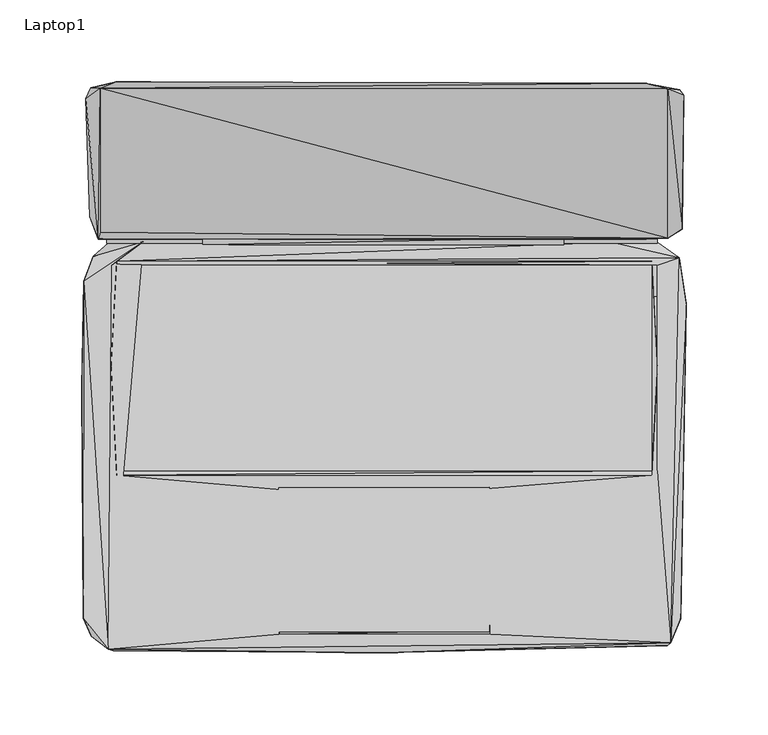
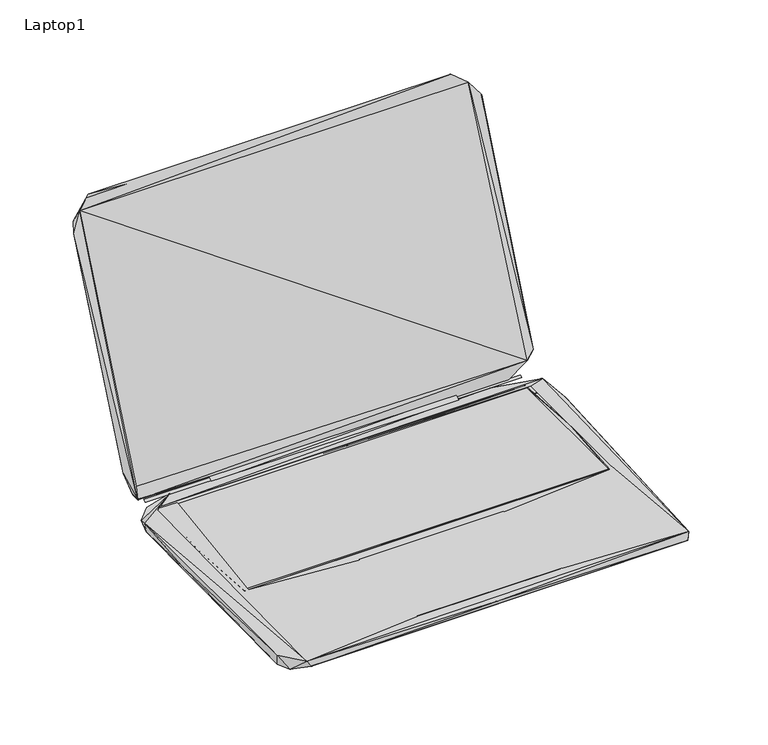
"""IFC4 building model written with IfcOpenShell, lengths in millimetres: furniture geometry, Laptop1 : 0.37 m x 0.35 m 2."""

from ifc_helpers import new_model, si_unit, origin, place, context, project, spatial, triangles, source, transform, mapped, element, save


def laptop1_fbb91723(model_context):
    return source(origin(), model_context, "Body", "Tessellation", [
        triangles([(-163.1627515, -63.4161464, 10.6379669), (163.3643925, -63.4160874, 10.6379669), (-163.1627878, 62.2339284, 10.6379669), (163.3643744, 62.2339875, 10.6379669)], [[1, 2, 3], [2, 4, 3]], closed=False),
        triangles([(-110.8122314, 74.6277804, 10.6596248), (109.6013315, 74.6278258, 10.6596248), (109.7013254, 79.0278252, 13.559625), (-110.8122314, 79.1277828, 13.559625), (-177.749561, 67.5617918, 1.9875597), (-147.0631255, 76.4618027, 11.2875593), (-168.0495535, 76.0617908, 5.7875595), (179.8283403, 64.061851, 1.3875597), (-175.7495559, 83.7617932, 15.6875588), (179.7283464, 88.3618485, 24.887557), (153.6283407, 77.6618475, 9.9875603), (-174.5495564, 78.1617898, 13.8875596), (-173.4495691, 82.3617878, 23.5875592), (-173.4495691, 170.0837317, 230.6309262), (173.2283617, 78.5618471, 23.5875592), (-182.3495709, 163.7837347, 215.930915), (-169.4495589, 75.7617955, 11.0875602), (166.7283405, 75.7618545, 11.0875602), (-169.4495589, 78.1617898, 12.3875592), (166.7283405, 78.1618534, 12.3875592), (138.5419251, 76.3618451, 10.7875592), (166.8283526, 76.2618512, 5.8875596), (-166.3495664, 62.0617914, 11.38756), (-163.1495437, 64.7617856, 11.38756), (-163.1495437, 62.1617898, 10.6875596), (163.4283603, 64.7618492, 11.38756), (166.7283405, 62.1618534, 11.4875596), (180.1283584, 66.7618497, 11.1875598), (163.4283603, 62.1618534, 10.6875596), (181.8283454, 84.2618535, 27.087559), (173.2283435, 169.9837923, 230.7309201), (183.0283449, 165.9837821, 217.9309201), (180.4283219, 169.2837805, 219.6309072), (-179.2495784, 170.3837133, 222.6309239), (-163.4495617, 174.0837237, 240.2309216), (159.4283319, 173.2837907, 240.9309152), (-183.6495097, -153.3040146, 10.6875596), (-182.5495042, -150.8040128, 0.2875598), (-178.849512, -164.2040033, 2.0875598), (-168.3494988, -172.3039995, 11.1875598), (-184.5495456, -12.9601442, 6.4875599), (-183.3495462, 52.5508167, 10.0875599), (-180.9495473, 54.1508235, 0.2875598), (180.9284004, -153.7039357, 0.3875598), (-165.1495125, -173.3040111, 5.9875598), (172.9283981, -170.0039582, 4.2875599), (-0.1173311, -174.3039864, 9.9875603), (-64.3902103, -163.2039917, 11.4875596), (-62.6902278, -74.8820526, 10.9875595), (174.8283912, -168.4039468, 11.2875593), (64.6690859, -163.2039735, 11.4875596), (-166.5495179, -63.3820733, 11.4875596), (-162.9495378, -66.0820765, 11.4875596), (-64.3902103, -161.8039863, 11.0875602), (64.2690967, -161.7039561, 11.0875602), (64.0690771, -73.4820291, 11.0875602), (-64.4902224, -73.5820593, 11.0875602), (-63.4902107, -159.8039994, 10.9875595), (62.0690902, -161.1039564, 10.9875595), (62.1690705, -74.1820409, 10.9875595), (184.3283564, 38.5508855, 8.7875592), (163.4283784, -66.0820175, 11.4875596), (166.7283769, -63.3820142, 11.4875596), (182.5283391, 42.6508896, 0.1875598), (-163.1495255, -66.0820765, 11.38756), (163.4283784, -63.3820142, 10.6875596), (-163.1495255, -63.3820733, 10.6875596), (-166.549536, 0.5398586, 11.38756), (166.7283587, -1.760083, 11.38756), (-179.8495418, 91.6617924, 32.1875588)], [[1, 2, 3], [1, 3, 4], [5, 6, 7], [5, 7, 8], [9, 10, 11], [9, 11, 12], [12, 13, 14], [12, 11, 15], [12, 15, 13], [12, 14, 16], [17, 18, 19], [19, 18, 20], [7, 6, 21], [7, 21, 22], [7, 22, 8], [23, 24, 6], [24, 25, 26], [24, 21, 6], [24, 27, 28], [24, 28, 21], [25, 29, 26], [21, 28, 22], [11, 30, 15], [11, 10, 30], [22, 28, 8], [15, 30, 31], [10, 32, 30], [10, 33, 32], [30, 32, 31], [16, 14, 34], [34, 35, 33], [34, 14, 35], [14, 36, 35], [14, 31, 36], [35, 36, 33], [36, 31, 33], [31, 32, 33], [37, 38, 39], [37, 39, 40], [37, 41, 38], [37, 42, 41], [37, 40, 42], [38, 41, 43], [38, 44, 39], [38, 43, 44], [39, 45, 40], [39, 46, 45], [39, 44, 46], [40, 23, 6], [40, 45, 47], [40, 48, 49], [40, 47, 50], [40, 51, 48], [40, 50, 51], [40, 52, 23], [40, 53, 52], [40, 49, 53], [40, 6, 42], [45, 46, 47], [54, 55, 56], [54, 56, 57], [48, 58, 49], [48, 59, 58], [48, 51, 59], [47, 46, 50], [51, 50, 60], [46, 44, 50], [50, 61, 28], [50, 44, 61], [50, 62, 60], [50, 63, 62], [50, 27, 63], [50, 28, 27], [44, 64, 61], [44, 43, 64], [65, 66, 67], [65, 62, 66], [65, 67, 68], [67, 25, 68], [53, 49, 60], [53, 60, 62], [66, 62, 69], [66, 69, 29], [41, 42, 43], [68, 25, 24], [69, 26, 29], [42, 5, 43], [42, 6, 5], [43, 5, 8], [43, 8, 64], [64, 8, 61], [61, 8, 28], [70, 9, 12], [70, 12, 16], [70, 10, 9], [70, 34, 33], [70, 33, 10], [70, 16, 34]], closed=False),
        triangles([(-173.4428834, 82.3395598, 23.5443364), (173.289786, 78.5396283, 23.5443364), (-173.4429016, 170.1374893, 230.6010043), (173.2897678, 169.937556, 230.6010043)], [[1, 2, 3], [2, 4, 3]], closed=False),
    ])


if __name__ == "__main__":
    model = new_model("IFC4")
    model_context = context("Model", 3, world=origin())
    ifc_project = project(units=[si_unit("LENGTHUNIT", "METRE", prefix="MILLI")], contexts=[model_context])
    site = spatial("IfcSite", under=ifc_project)
    building = spatial("IfcBuilding", under=site)
    placement = place(None, origin())
    laptop1_shape = laptop1_fbb91723(model_context)
    element("IfcFurniture", 1, ObjectType="Laptop1 : 0.37 m x 0.35 m 2", at=placement, inside=building, context=model_context, shape_type="MappedRepresentation", body=[
        mapped(laptop1_shape, transform((0.0, 0.0, 0.0), x_axis=(1.0, 0.0, 0.0), y_axis=(0.0, 1.0, 0.0), z_axis=(0.0, 0.0, 1.0))),
    ])
    save(model, "model.ifc")
